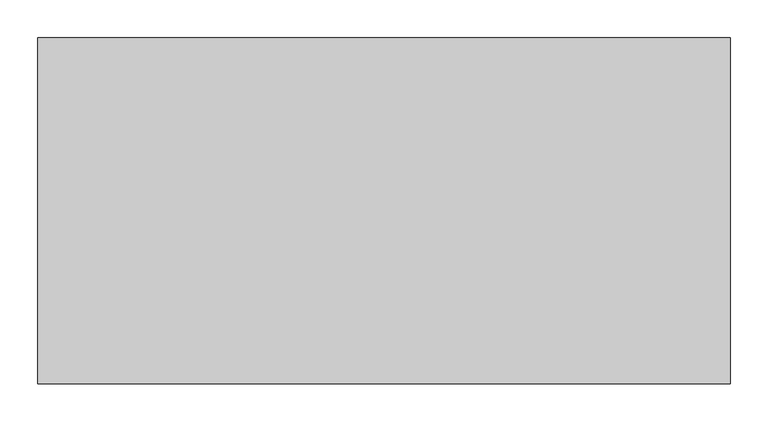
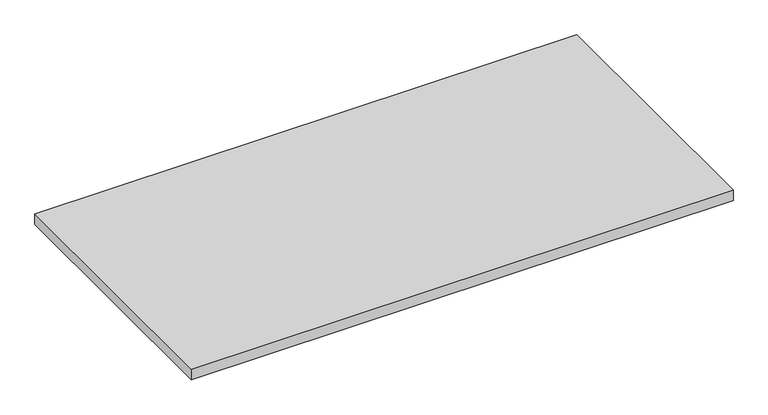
"""IFC4 building model written with IfcOpenShell, lengths in millimetres: furniture geometry, Steelcase - Universal Storage - Adjustable Steel Standard Shelf : 18D x 36W."""

from ifc_helpers import new_model, si_unit, frame, origin, place, context, project, spatial, polyline, outline, extrude, source, transform, mapped, element, save


def furniture_85dccbbf(model_context):
    return source(origin(), model_context, "Body", "SweptSolid", [
        extrude(outline(polyline([(914.4, 0.0), (914.4, -457.2), (0.0, -457.2), (0.0, 0.0), (914.4, 0.0)])), frame((0.0, 0.0, 285.75), z_axis=(0.0, 0.0, 1.0), x_axis=(1.0, 0.0, 0.0)), (0.0, 0.0, 1.0), 19.05),
    ])


if __name__ == "__main__":
    model = new_model("IFC4")
    model_context = context("Model", 3, world=origin())
    ifc_project = project(units=[si_unit("LENGTHUNIT", "METRE", prefix="MILLI")], contexts=[model_context])
    site = spatial("IfcSite", under=ifc_project)
    building = spatial("IfcBuilding", under=site)
    placement = place(None, origin())
    furniture_shape = furniture_85dccbbf(model_context)
    element("IfcFurniture", 1, ObjectType="Steelcase - Universal Storage - Adjustable Steel Standard Shelf : 18D x 36W", at=placement, inside=building, context=model_context, shape_type="MappedRepresentation", body=[
        mapped(furniture_shape, transform((0.0, 0.0, 0.0), x_axis=(1.0, 0.0, 0.0), y_axis=(0.0, 1.0, 0.0), z_axis=(0.0, 0.0, 1.0))),
    ])
    save(model, "model.ifc")
